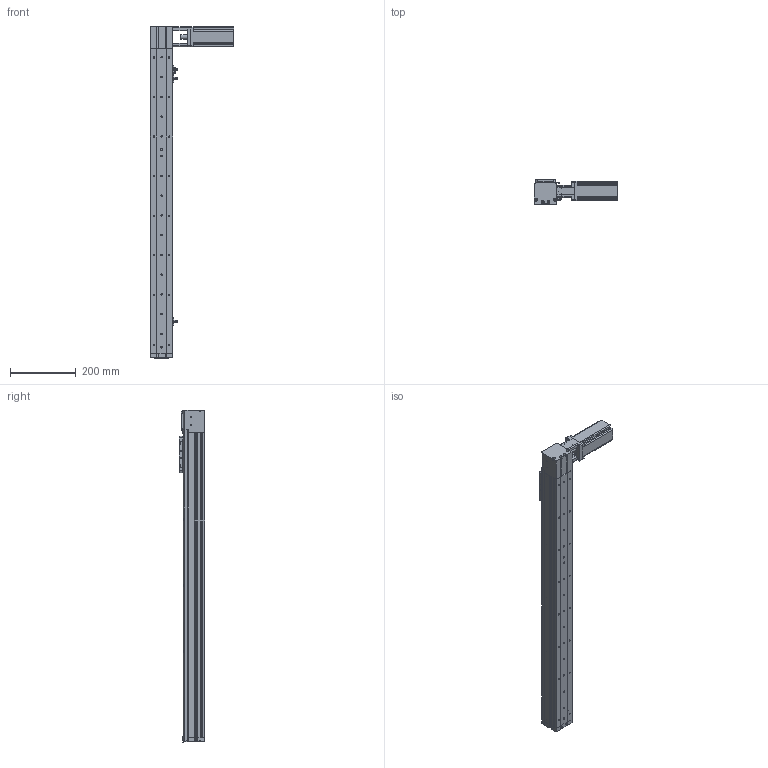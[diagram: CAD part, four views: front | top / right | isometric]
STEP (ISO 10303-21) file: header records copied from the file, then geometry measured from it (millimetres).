
FILE_DESCRIPTION (( 'STEP AP214' ), '1' );
FILE_NAME ('KSD68BS-S750-MRT-CR.STEP', '2019-11-07T06:41:41', ( '微软用户' ), ( '微软中国' ), 'SwSTEP 2.0', 'SolidWorks 2014', '' );
FILE_SCHEMA (( 'AUTOMOTIVE_DESIGN' ));
Length unit declared in the file: millimetre
Products named in the file (13): KSD68BS 750行程盖板全封闭; 68遵裔啣揤啣1; 68宽单导轨全封闭丝杆传动安装板1防护罩; KSD68BS 750行程侧板全封闭; 68宽单导轨全封闭同步带端板; 68单导轨全封闭同步带电机座左; 68单导轨全封闭同步带安装板; 感应片68宽全封闭; U倰嫖萇EEㄜSX672; 台达ECMA－C20604AS伺服电机（400W); KSD68BS 750行程底板全封闭; KSD68BS-S750-MRT-CR; 100遵鎮湛假蚾啣1
Assembly tree (16 placements, depth 2):
  KSD68BS-S750-MRT-CR
    KSD68BS 750行程底板全封闭
    台达ECMA－C20604AS伺服电机（400W)
    U倰嫖萇EEㄜSX672  x3
    感应片68宽全封闭
    68单导轨全封闭同步带安装板
    68单导轨全封闭同步带电机座左
    68宽单导轨全封闭同步带端板
    KSD68BS 750行程侧板全封闭  x2
    68宽单导轨全封闭丝杆传动安装板1防护罩
    68遵裔啣揤啣1  x2
    KSD68BS 750行程盖板全封闭
    100遵鎮湛假蚾啣1
Bounding box: 252.7 x 77 x 1008.1 mm (x, y, z)
Volume: 2148309.4 mm3; surface area: 774777.2 mm2
Topology: 17 solids, 17 shells, 1399 faces, 3968 edges, 2540 vertices
Faces by surface type: cylinder 649, plane 598, cone 152
Entity records: 44078 total; most frequent: CARTESIAN_POINT 7507, DIRECTION 6557, ORIENTED_EDGE 6280, EDGE_CURVE 3140, AXIS2_PLACEMENT_3D 2358, VERTEX_POINT 2058, VECTOR 1841, LINE 1841
